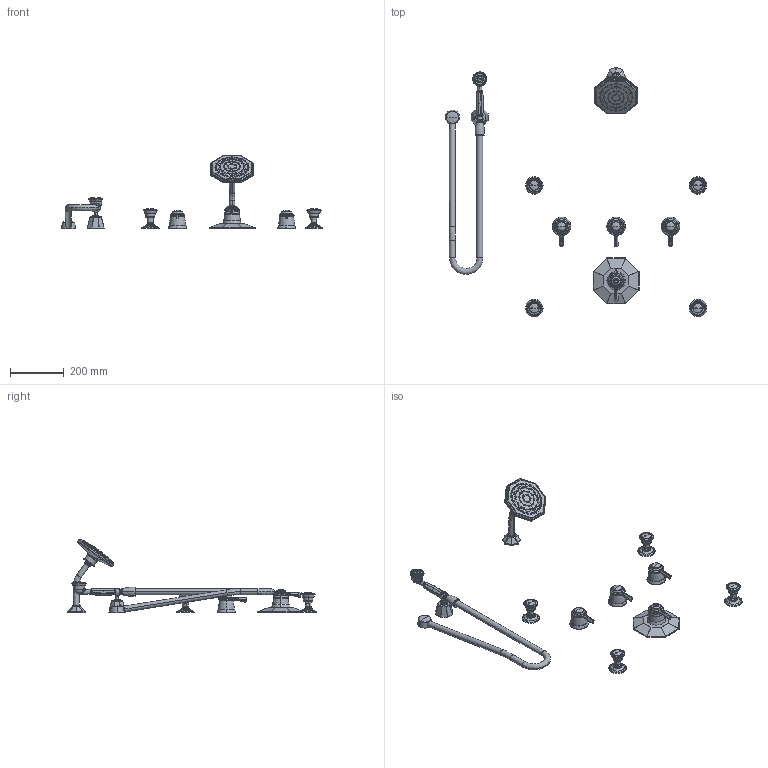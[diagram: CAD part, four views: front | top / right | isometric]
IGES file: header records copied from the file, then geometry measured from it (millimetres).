
Start section:  PTC IGES file: sku_ts546.igs
Global section: file name: sku_ts546.igs; native system: Pro/ENGINEER by Parametric Technology Corporation; preprocessor: 2006460; author: 9dutterb; organization: Unknown; date: 20071106.100929; units: inch
Bounding box: 973.35 x 930.31 x 272.22 mm (x, y, z)
Surface area: 455816.9 mm2 (no closed solid volume)
Topology: 0 solids, 0 shells, 1299 faces, 8497 edges, 8475 vertices
Faces by surface type: revolution 892, bspline 407
